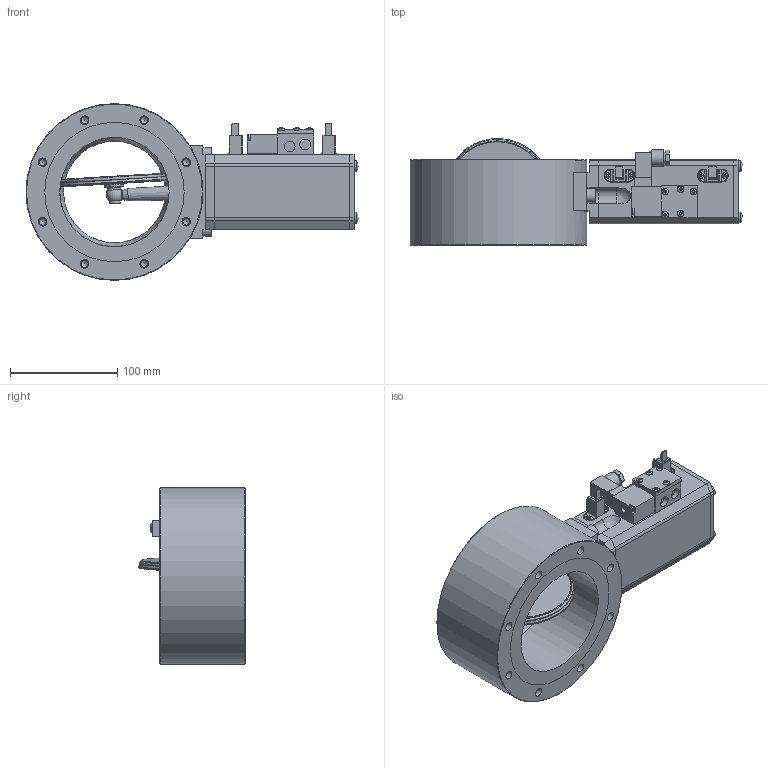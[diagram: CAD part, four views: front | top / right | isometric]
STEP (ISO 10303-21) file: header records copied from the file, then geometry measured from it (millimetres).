
FILE_DESCRIPTION(/* description */ (''),/* implementation_level */ '2;1');
FILE_NAME(/* name */ '1534802572_203.stp',/* time_stamp */ '2010-10-13T08:09:30+02:00',/* author */ (''),/* organization */ (''),/* preprocessor_version */ 'ST-DEVELOPER v11',/* originating_system */ 'SIEMENS UGS NX 6.0',/* authorisation */ '');
FILE_SCHEMA (('CONFIG_CONTROL_DESIGN'));
Length unit declared in the file: millimetre
Products named in the file (33): N-6089-308.1; 372421; 227430.1; N-8409-200.3; 92571-01.2; 365072; 372221; 227328.2; 227452.1; N-6024-515.1; 227450.1; N-7557-016_1.1; N-7557-018.1; N-7557-016_2.1; N-7557-016_3.1; N-6024-524.1; N-5018-005.1; 224374.6; 233106.4; 224315.3; 224223.6; 233137.1; 225582.1; 235209.1; N-6005-474.1; 224828.2; N-6013-443.2; 372418_MODEL; 372415_NX-ARRAGMNTZUSAMMENST1; 227117.3; 226699_NX-ARRAGMNTZUSAMMENST1; 94800-R1.7_NX-ARRAGMNTKONFIG4; 374059
Assembly tree (47 placements, depth 4):
  374059
    N-6013-443.2  x4
    224828.2  x2
    N-6005-474.1
    235209.1
    225582.1  x4
    233137.1
    224223.6
    224315.3
    233106.4
    224374.6
    94800-R1.7_NX-ARRAGMNTKONFIG4
      N-5018-005.1  x2
      N-6024-524.1  x6
      N-7557-016_3.1
      N-7557-016_2.1
      N-7557-018.1
      N-7557-016_1.1
    226699_NX-ARRAGMNTZUSAMMENST1  x2
      227450.1
      N-6024-515.1
      227452.1
      227328.2
      227117.3
        92571-01.2
        N-8409-200.3
        227430.1
    372415_NX-ARRAGMNTZUSAMMENST1
      372418_MODEL
        372421
        N-6089-308.1
      372221
      365072
Bounding box: 309.7 x 99.57 x 165 mm (x, y, z)
Volume: 1493273.6 mm3; surface area: 266983.1 mm2
Topology: 55 solids, 55 shells, 1458 faces, 3580 edges, 2337 vertices
Faces by surface type: plane 920, cylinder 378, cone 86, bspline 29, sphere 25, torus 16, extrusion 4
Full cylindrical faces by diameter (mm): 0.4 x4, 0.6 x4, 1.1 x4, 1.2 x2, 2 x6, 2.2 x4, 2.5 x10, 2.7 x2, 2.9 x4, 3 x11, 3.2 x4, 3.3 x4, 3.4 x4, 3.5 x4, 4 x13, 4.4 x12, 4.96 x1, 5 x20, 5.006 x1, 5.4 x8, 6 x12, 6.3 x1, 6.4 x16, 6.66 x2, 6.7 x2, 6.9 x1, 7.008 x1, 7.3 x2, 7.5 x5, 8 x24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
Entity records: 31757 total; most frequent: CARTESIAN_POINT 6063, DIRECTION 4486, ORIENTED_EDGE 3966, EDGE_CURVE 1983, AXIS2_PLACEMENT_3D 1695, VERTEX_POINT 1494, EDGE_LOOP 1439, VECTOR 1096
